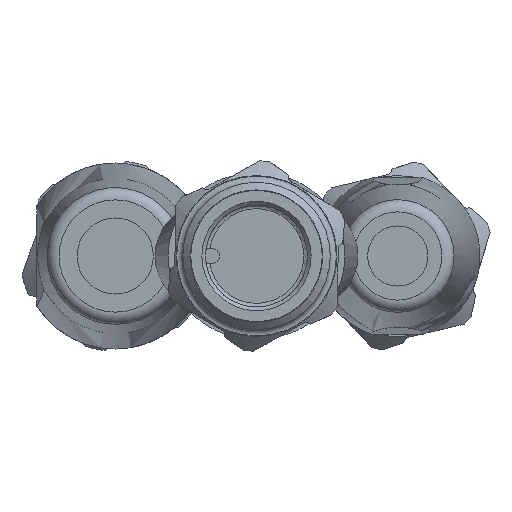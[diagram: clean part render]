
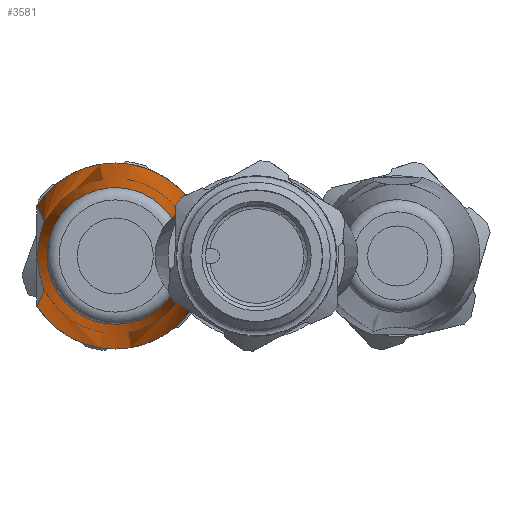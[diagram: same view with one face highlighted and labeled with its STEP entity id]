
A CAD part, left-side view. The second image highlights one B-rep face of the part: STEP entity #3581.
In plain terms, the highlighted toroidal (fillet/blend) face has major radius 996.5 mm and minor radius 1005.39 mm.
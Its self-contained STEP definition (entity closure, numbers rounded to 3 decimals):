
#455=DEGENERATE_TOROIDAL_SURFACE('',#3816,996.5,1005.39,
 .F.);
#514=B_SPLINE_CURVE_WITH_KNOTS('',3,(#5267,#5268,#5269,#5270),
 .UNSPECIFIED.,.F.,.F.,(4,4),(0.,0.018),
 .UNSPECIFIED.);
#515=B_SPLINE_CURVE_WITH_KNOTS('',3,(#5272,#5273,#5274,#5275),
 .UNSPECIFIED.,.F.,.F.,(4,4),(0.,0.018),
 .UNSPECIFIED.);
#516=B_SPLINE_CURVE_WITH_KNOTS('',3,(#5277,#5278,#5279,#5280,#5281,#5282,
#5283),.UNSPECIFIED.,.F.,.F.,(4,1,1,1,4),(0.,0.002,
0.004,0.006,0.008),
 .UNSPECIFIED.);
#517=B_SPLINE_CURVE_WITH_KNOTS('',3,(#5285,#5286,#5287,#5288),
 .UNSPECIFIED.,.F.,.F.,(4,4),(0.,0.018),
 .UNSPECIFIED.);
#518=B_SPLINE_CURVE_WITH_KNOTS('',3,(#5289,#5290,#5291,#5292),
 .UNSPECIFIED.,.F.,.F.,(4,4),(0.,0.018),
 .UNSPECIFIED.);
#519=B_SPLINE_CURVE_WITH_KNOTS('',3,(#5294,#5295,#5296,#5297,#5298,#5299,
#5300),.UNSPECIFIED.,.F.,.F.,(4,1,1,1,4),(0.,0.002,
0.004,0.006,0.008),
 .UNSPECIFIED.);
#891=ORIENTED_EDGE('',*,*,#1551,.T.);
#892=ORIENTED_EDGE('',*,*,#1548,.T.);
#893=ORIENTED_EDGE('',*,*,#1552,.T.);
#894=ORIENTED_EDGE('',*,*,#1553,.T.);
#895=ORIENTED_EDGE('',*,*,#1554,.T.);
#896=ORIENTED_EDGE('',*,*,#1545,.T.);
#897=ORIENTED_EDGE('',*,*,#1555,.T.);
#898=ORIENTED_EDGE('',*,*,#1556,.T.);
#899=ORIENTED_EDGE('',*,*,#1557,.F.);
#1545=EDGE_CURVE('',#1904,#1905,#2127,.T.);
#1548=EDGE_CURVE('',#1906,#1907,#2128,.T.);
#1551=EDGE_CURVE('',#1908,#1906,#514,.T.);
#1552=EDGE_CURVE('',#1907,#1909,#515,.T.);
#1553=EDGE_CURVE('',#1909,#1910,#516,.T.);
#1554=EDGE_CURVE('',#1910,#1904,#517,.T.);
#1555=EDGE_CURVE('',#1905,#1911,#518,.T.);
#1556=EDGE_CURVE('',#1911,#1908,#519,.T.);
#1557=EDGE_CURVE('',#1912,#1912,#2129,.T.);
#1904=VERTEX_POINT('',#5234);
#1905=VERTEX_POINT('',#5235);
#1906=VERTEX_POINT('',#5251);
#1907=VERTEX_POINT('',#5252);
#1908=VERTEX_POINT('',#5271);
#1909=VERTEX_POINT('',#5276);
#1910=VERTEX_POINT('',#5284);
#1911=VERTEX_POINT('',#5293);
#1912=VERTEX_POINT('',#5302);
#2127=CIRCLE('',#3813,7.574);
#2128=CIRCLE('',#3815,7.574);
#2129=CIRCLE('',#3817,5.568);
#2279=EDGE_LOOP('',(#891,#892,#893,#894,#895,#896,#897,#898));
#2280=EDGE_LOOP('',(#899));
#2509=FACE_BOUND('',#2279,.T.);
#2510=FACE_BOUND('',#2280,.T.);
#3581=ADVANCED_FACE('',(#2509,#2510),#455,.F.);
#3813=AXIS2_PLACEMENT_3D('',#5233,#4244,#4245);
#3815=AXIS2_PLACEMENT_3D('',#5250,#4248,#4249);
#3816=AXIS2_PLACEMENT_3D('',#5266,#4250,#4251);
#3817=AXIS2_PLACEMENT_3D('',#5301,#4252,#4253);
#4244=DIRECTION('',(1.,0.,0.));
#4245=DIRECTION('',(0.,0.,-1.));
#4248=DIRECTION('',(1.,0.,0.));
#4249=DIRECTION('',(0.,0.,-1.));
#4250=DIRECTION('',(1.,0.,0.));
#4251=DIRECTION('',(0.,0.,-1.));
#4252=DIRECTION('',(1.,0.,0.));
#4253=DIRECTION('',(0.,0.,-1.));
#5233=CARTESIAN_POINT('',(12.391,0.,0.));
#5234=CARTESIAN_POINT('',(12.391,-4.088,6.377));
#5235=CARTESIAN_POINT('',(12.391,-4.088,-6.377));
#5250=CARTESIAN_POINT('',(12.391,0.,0.));
#5251=CARTESIAN_POINT('',(12.391,4.088,-6.377));
#5252=CARTESIAN_POINT('',(12.391,4.088,6.377));
#5266=CARTESIAN_POINT('',(-39.03,0.,0.));
#5267=CARTESIAN_POINT('',(30.823,2.845,-5.801));
#5268=CARTESIAN_POINT('',(24.691,3.424,-5.992));
#5269=CARTESIAN_POINT('',(18.543,3.804,-6.184));
#5270=CARTESIAN_POINT('',(12.391,4.088,-6.377));
#5271=CARTESIAN_POINT('',(30.823,2.845,-5.801));
#5272=CARTESIAN_POINT('',(12.391,4.088,6.377));
#5273=CARTESIAN_POINT('',(18.543,3.804,6.184));
#5274=CARTESIAN_POINT('',(24.691,3.424,5.992));
#5275=CARTESIAN_POINT('',(30.823,2.845,5.801));
#5276=CARTESIAN_POINT('',(30.823,2.845,5.801));
#5277=CARTESIAN_POINT('',(30.823,2.845,5.801));
#5278=CARTESIAN_POINT('',(31.47,2.723,5.81));
#5279=CARTESIAN_POINT('',(32.599,1.963,6.102));
#5280=CARTESIAN_POINT('',(33.132,-0.004,6.414));
#5281=CARTESIAN_POINT('',(32.598,-1.962,6.102));
#5282=CARTESIAN_POINT('',(31.471,-2.723,5.81));
#5283=CARTESIAN_POINT('',(30.823,-2.845,5.801));
#5284=CARTESIAN_POINT('',(30.823,-2.845,5.801));
#5285=CARTESIAN_POINT('',(30.823,-2.845,5.801));
#5286=CARTESIAN_POINT('',(24.691,-3.424,5.992));
#5287=CARTESIAN_POINT('',(18.543,-3.804,6.184));
#5288=CARTESIAN_POINT('',(12.391,-4.088,6.377));
#5289=CARTESIAN_POINT('',(12.391,-4.088,-6.377));
#5290=CARTESIAN_POINT('',(18.543,-3.804,-6.184));
#5291=CARTESIAN_POINT('',(24.691,-3.424,-5.992));
#5292=CARTESIAN_POINT('',(30.823,-2.845,-5.801));
#5293=CARTESIAN_POINT('',(30.823,-2.845,-5.801));
#5294=CARTESIAN_POINT('',(30.823,-2.845,-5.801));
#5295=CARTESIAN_POINT('',(31.47,-2.723,-5.81));
#5296=CARTESIAN_POINT('',(32.599,-1.963,-6.102));
#5297=CARTESIAN_POINT('',(33.132,0.004,-6.414));
#5298=CARTESIAN_POINT('',(32.598,1.962,-6.102));
#5299=CARTESIAN_POINT('',(31.471,2.723,-5.81));
#5300=CARTESIAN_POINT('',(30.823,2.845,-5.801));
#5301=CARTESIAN_POINT('',(42.631,0.,0.));
#5302=CARTESIAN_POINT('',(42.631,0.,-5.568));
